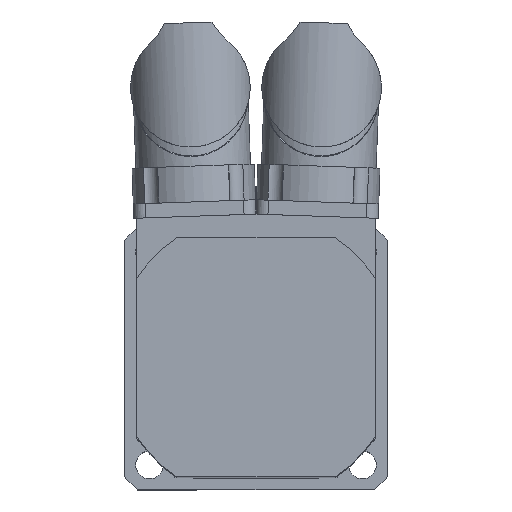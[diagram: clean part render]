
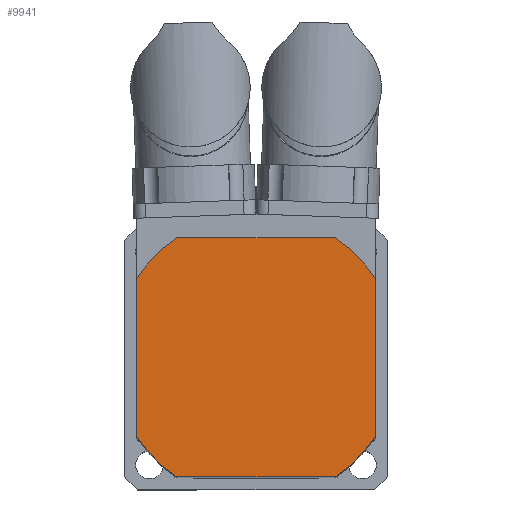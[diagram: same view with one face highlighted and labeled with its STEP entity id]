
A CAD part, top view. The second image highlights one B-rep face of the part: STEP entity #9941.
In plain terms, the highlighted planar face has unit normal (0, 0, 1).
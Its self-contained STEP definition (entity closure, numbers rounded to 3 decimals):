
#9761=CARTESIAN_POINT('',(16.583,25.0,3.5));
#9762=VERTEX_POINT('',#9761);
#9763=CARTESIAN_POINT('',(25.0,16.583,3.5));
#9764=VERTEX_POINT('',#9763);
#9765=CARTESIAN_POINT('',(0.0,0.0,3.5));
#9766=DIRECTION('',(0.0,0.0,-1.0));
#9767=DIRECTION('',(-0.833,-0.553,0.0));
#9768=AXIS2_PLACEMENT_3D('',#9765,#9766,#9767);
#9769=CIRCLE('',#9768,30.0);
#9770=EDGE_CURVE('',#9762,#9764,#9769,.T.);
#9793=CARTESIAN_POINT('',(25.,-16.583,3.5));
#9794=VERTEX_POINT('',#9793);
#9795=CARTESIAN_POINT('',(16.583,-25.0,3.5));
#9796=VERTEX_POINT('',#9795);
#9797=CARTESIAN_POINT('',(0.0,0.0,3.5));
#9798=DIRECTION('',(0.0,0.0,-1.0));
#9799=DIRECTION('',(-0.553,0.833,0.0));
#9800=AXIS2_PLACEMENT_3D('',#9797,#9798,#9799);
#9801=CIRCLE('',#9800,30.0);
#9802=EDGE_CURVE('',#9794,#9796,#9801,.T.);
#9827=CARTESIAN_POINT('',(-16.583,-25.0,3.5));
#9828=VERTEX_POINT('',#9827);
#9829=CARTESIAN_POINT('',(-25.0,-16.583,3.5));
#9830=VERTEX_POINT('',#9829);
#9831=CARTESIAN_POINT('',(0.0,0.0,3.5));
#9832=DIRECTION('',(0.0,0.0,-1.0));
#9833=DIRECTION('',(0.833,0.553,0.0));
#9834=AXIS2_PLACEMENT_3D('',#9831,#9832,#9833);
#9835=CIRCLE('',#9834,30.0);
#9836=EDGE_CURVE('',#9828,#9830,#9835,.T.);
#9867=CARTESIAN_POINT('',(-25.,16.583,3.5));
#9868=VERTEX_POINT('',#9867);
#9869=CARTESIAN_POINT('',(-16.583,25.0,3.5));
#9870=VERTEX_POINT('',#9869);
#9871=CARTESIAN_POINT('',(0.0,0.0,3.5));
#9872=DIRECTION('',(0.0,0.0,-1.0));
#9873=DIRECTION('',(0.553,-0.833,0.0));
#9874=AXIS2_PLACEMENT_3D('',#9871,#9872,#9873);
#9875=CIRCLE('',#9874,30.);
#9876=EDGE_CURVE('',#9868,#9870,#9875,.T.);
#9899=CARTESIAN_POINT('',(-16.583,25.0,3.5));
#9900=DIRECTION('',(1.0,0.0,0.0));
#9901=VECTOR('',#9900,33.166);
#9902=LINE('',#9899,#9901);
#9903=EDGE_CURVE('',#9870,#9762,#9902,.T.);
#9911=CARTESIAN_POINT('',(-27.5,-27.5,3.5));
#9912=DIRECTION('',(0.0,0.0,1.0));
#9913=DIRECTION('',(1.0,0.0,0.0));
#9914=AXIS2_PLACEMENT_3D('',#9911,#9912,#9913);
#9915=PLANE('',#9914);
#9916=ORIENTED_EDGE('',*,*,#9770,.F.);
#9917=ORIENTED_EDGE('',*,*,#9903,.F.);
#9918=ORIENTED_EDGE('',*,*,#9876,.F.);
#9919=CARTESIAN_POINT('',(-25.0,-16.583,3.5));
#9920=DIRECTION('',(0.0,1.0,0.0));
#9921=VECTOR('',#9920,33.166);
#9922=LINE('',#9919,#9921);
#9923=EDGE_CURVE('',#9830,#9868,#9922,.T.);
#9924=ORIENTED_EDGE('',*,*,#9923,.F.);
#9925=ORIENTED_EDGE('',*,*,#9836,.F.);
#9926=CARTESIAN_POINT('',(16.583,-25.0,3.5));
#9927=DIRECTION('',(-1.0,0.0,0.0));
#9928=VECTOR('',#9927,33.166);
#9929=LINE('',#9926,#9928);
#9930=EDGE_CURVE('',#9796,#9828,#9929,.T.);
#9931=ORIENTED_EDGE('',*,*,#9930,.F.);
#9932=ORIENTED_EDGE('',*,*,#9802,.F.);
#9933=CARTESIAN_POINT('',(25.0,16.583,3.5));
#9934=DIRECTION('',(0.0,-1.0,0.0));
#9935=VECTOR('',#9934,33.166);
#9936=LINE('',#9933,#9935);
#9937=EDGE_CURVE('',#9764,#9794,#9936,.T.);
#9938=ORIENTED_EDGE('',*,*,#9937,.F.);
#9939=EDGE_LOOP('',(#9916,#9917,#9918,#9924,#9925,#9931,#9932,#9938));
#9940=FACE_OUTER_BOUND('',#9939,.T.);
#9941=ADVANCED_FACE('',(#9940),#9915,.T.);
